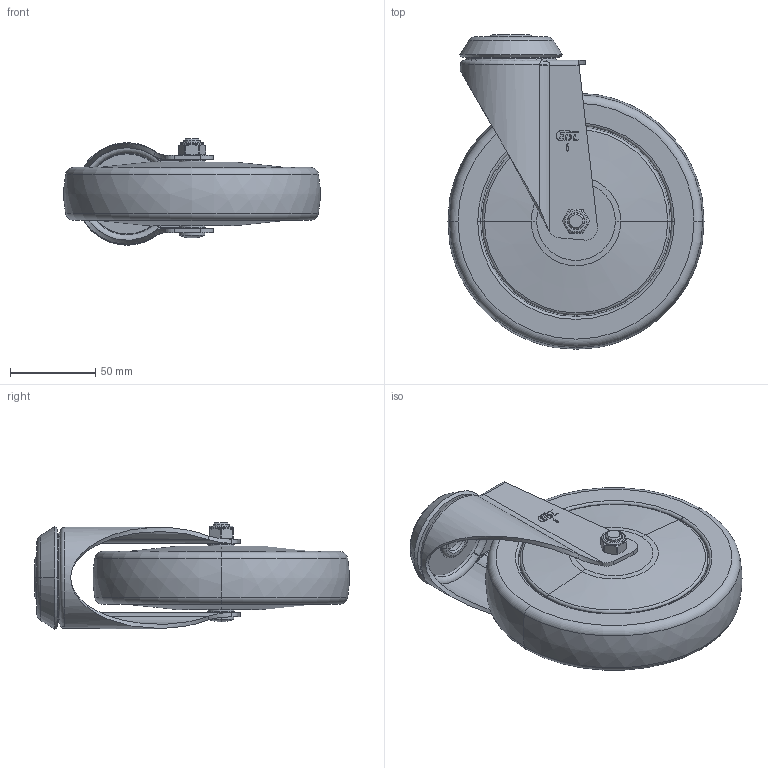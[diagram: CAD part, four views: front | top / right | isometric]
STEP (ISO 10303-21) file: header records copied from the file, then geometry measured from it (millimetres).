
FILE_DESCRIPTION((''),'2;1');
FILE_NAME('57276-576-77_ASM','2021-01-05T',('lenovo'),(''),'PRO/ENGINEER BY PARAMETRIC TECHNOLOGY CORPORATION, 2010280','PRO/ENGINEER BY PARAMETRIC TECHNOLOGY CORPORATION, 2010280','');
FILE_SCHEMA(('CONFIG_CONTROL_DESIGN'));
Length unit declared in the file: millimetre
Products named in the file (7): 5710-058; 5726-311; 5720-211; 576-77; 5710-020; 5710-031; 57276-576-77_ASM
Assembly tree (6 placements, depth 2):
  57276-576-77_ASM
    5710-058
    5726-311
    5720-211
    576-77
    5710-020
    5710-031
Bounding box: 149.8 x 183.9 x 62.25 mm (x, y, z)
Volume: 632787.9 mm3; surface area: 94038 mm2
Topology: 6 solids, 6 shells, 293 faces, 709 edges, 438 vertices
Faces by surface type: plane 125, cylinder 57, bspline 40, cone 36, torus 33, sphere 2
Entity records: 10076 total; most frequent: CARTESIAN_POINT 3208, DIRECTION 1403, ORIENTED_EDGE 1402, EDGE_CURVE 701, AXIS2_PLACEMENT_3D 522, VERTEX_POINT 436, VECTOR 359, LINE 359
